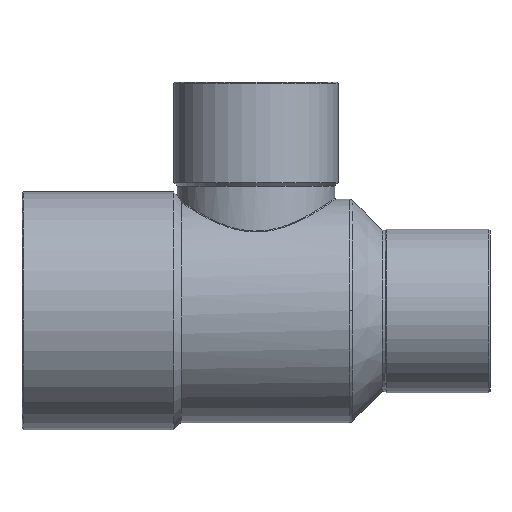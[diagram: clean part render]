
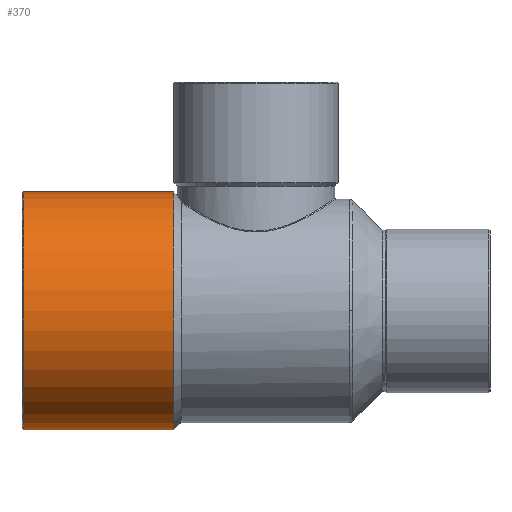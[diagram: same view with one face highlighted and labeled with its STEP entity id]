
A CAD part, top view. The second image highlights one B-rep face of the part: STEP entity #370.
In plain terms, the highlighted cylindrical face has radius 22.375 mm (diameter 44.75 mm), a partial arc.
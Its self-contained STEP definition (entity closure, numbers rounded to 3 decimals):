
#329=CARTESIAN_POINT('',(-29.731,0.0,0.0));
#330=DIRECTION('',(1.0,0.0,0.0));
#331=DIRECTION('',(0.0,1.0,0.0));
#332=AXIS2_PLACEMENT_3D('',#329,#330,#331);
#333=CYLINDRICAL_SURFACE('',#332,22.375);
#334=CARTESIAN_POINT('',(-43.8,22.375,0.));
#335=VERTEX_POINT('',#334);
#336=CARTESIAN_POINT('',(-15.462,22.375,0.0));
#337=VERTEX_POINT('',#336);
#338=CARTESIAN_POINT('',(-43.8,22.375,0.));
#339=DIRECTION('',(1.0,0.0,0.0));
#340=VECTOR('',#339,28.338);
#341=LINE('',#338,#340);
#342=EDGE_CURVE('',#335,#337,#341,.T.);
#343=ORIENTED_EDGE('',*,*,#342,.F.);
#344=CARTESIAN_POINT('',(-43.8,-22.375,0.));
#345=VERTEX_POINT('',#344);
#346=CARTESIAN_POINT('',(-43.8,0.0,0.0));
#347=DIRECTION('',(-1.0,0.0,0.0));
#348=DIRECTION('',(0.0,-1.0,0.0));
#349=AXIS2_PLACEMENT_3D('',#346,#347,#348);
#350=CIRCLE('',#349,22.375);
#351=EDGE_CURVE('',#345,#335,#350,.T.);
#352=ORIENTED_EDGE('',*,*,#351,.F.);
#353=CARTESIAN_POINT('',(-15.462,-22.375,0.));
#354=VERTEX_POINT('',#353);
#355=CARTESIAN_POINT('',(-15.462,-22.375,0.));
#356=DIRECTION('',(-1.0,0.0,0.0));
#357=VECTOR('',#356,28.338);
#358=LINE('',#355,#357);
#359=EDGE_CURVE('',#354,#345,#358,.T.);
#360=ORIENTED_EDGE('',*,*,#359,.F.);
#361=CARTESIAN_POINT('',(-15.462,0.0,0.0));
#362=DIRECTION('',(1.0,0.0,0.0));
#363=DIRECTION('',(0.0,1.0,0.0));
#364=AXIS2_PLACEMENT_3D('',#361,#362,#363);
#365=CIRCLE('',#364,22.375);
#366=EDGE_CURVE('',#337,#354,#365,.T.);
#367=ORIENTED_EDGE('',*,*,#366,.F.);
#368=EDGE_LOOP('',(#343,#352,#360,#367));
#369=FACE_OUTER_BOUND('',#368,.T.);
#370=ADVANCED_FACE('',(#369),#333,.T.);
